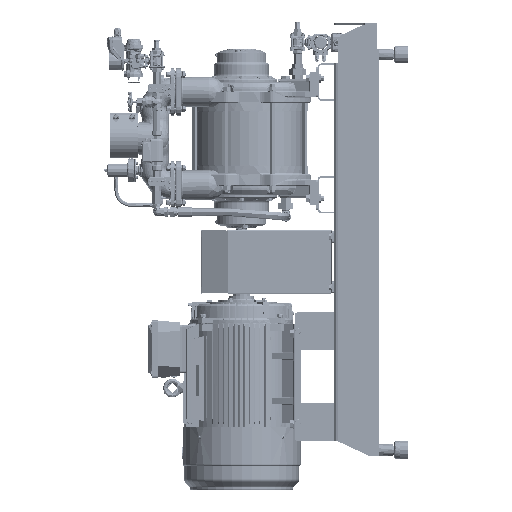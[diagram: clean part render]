
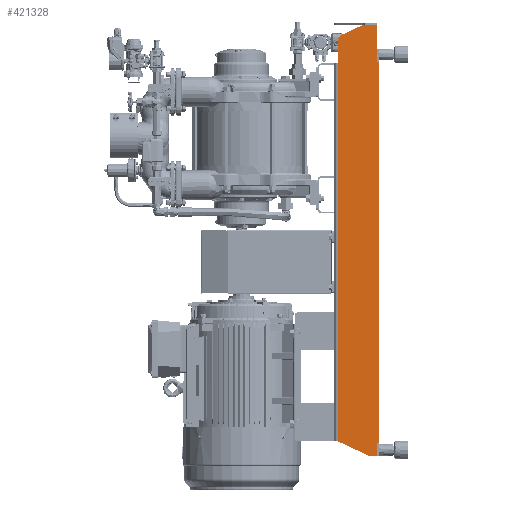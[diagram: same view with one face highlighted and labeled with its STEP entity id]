
A CAD part, left-side view. The second image highlights one B-rep face of the part: STEP entity #421328.
In plain terms, the highlighted planar face has unit normal (-1, 0, 0).
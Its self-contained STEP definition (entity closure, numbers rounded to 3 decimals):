
#28953=PLANE('',#449869);
#49876=FACE_OUTER_BOUND('',#74838,.T.);
#74838=EDGE_LOOP('',(#315119,#315120,#315121,#315122,#315123,#315124,#315125,
#315126,#315127,#315128,#315129,#315130));
#103373=LINE('',#802713,#132296);
#104060=LINE('',#804895,#132983);
#104061=LINE('',#804897,#132984);
#104062=LINE('',#804898,#132985);
#104063=LINE('',#804900,#132986);
#104064=LINE('',#804904,#132987);
#104065=LINE('',#804905,#132988);
#104066=LINE('',#804907,#132989);
#104067=LINE('',#804909,#132990);
#104068=LINE('',#804911,#132991);
#104069=LINE('',#804912,#132992);
#132296=VECTOR('',#514106,10.);
#132983=VECTOR('',#515973,10.);
#132984=VECTOR('',#515974,10.);
#132985=VECTOR('',#515975,10.);
#132986=VECTOR('',#515976,10.);
#132987=VECTOR('',#515979,10.);
#132988=VECTOR('',#515980,10.);
#132989=VECTOR('',#515981,10.);
#132990=VECTOR('',#515982,10.);
#132991=VECTOR('',#515983,10.);
#132992=VECTOR('',#515984,10.);
#153692=CIRCLE('',#449870,25.);
#180147=VERTEX_POINT('',#802710);
#180148=VERTEX_POINT('',#802712);
#180778=VERTEX_POINT('',#804879);
#180782=VERTEX_POINT('',#804893);
#180783=VERTEX_POINT('',#804894);
#180784=VERTEX_POINT('',#804896);
#180785=VERTEX_POINT('',#804899);
#180786=VERTEX_POINT('',#804901);
#180787=VERTEX_POINT('',#804903);
#180788=VERTEX_POINT('',#804906);
#180789=VERTEX_POINT('',#804908);
#180790=VERTEX_POINT('',#804910);
#227687=EDGE_CURVE('',#180147,#180148,#103373,.T.);
#228706=EDGE_CURVE('',#180782,#180783,#104060,.T.);
#228707=EDGE_CURVE('',#180782,#180784,#104061,.T.);
#228708=EDGE_CURVE('',#180148,#180784,#104062,.T.);
#228709=EDGE_CURVE('',#180785,#180147,#104063,.T.);
#228710=EDGE_CURVE('',#180786,#180785,#153692,.T.);
#228711=EDGE_CURVE('',#180787,#180786,#104064,.T.);
#228712=EDGE_CURVE('',#180787,#180778,#104065,.T.);
#228713=EDGE_CURVE('',#180788,#180778,#104066,.T.);
#228714=EDGE_CURVE('',#180789,#180788,#104067,.T.);
#228715=EDGE_CURVE('',#180789,#180790,#104068,.T.);
#228716=EDGE_CURVE('',#180790,#180783,#104069,.T.);
#315119=ORIENTED_EDGE('',*,*,#228706,.F.);
#315120=ORIENTED_EDGE('',*,*,#228707,.T.);
#315121=ORIENTED_EDGE('',*,*,#228708,.F.);
#315122=ORIENTED_EDGE('',*,*,#227687,.F.);
#315123=ORIENTED_EDGE('',*,*,#228709,.F.);
#315124=ORIENTED_EDGE('',*,*,#228710,.F.);
#315125=ORIENTED_EDGE('',*,*,#228711,.F.);
#315126=ORIENTED_EDGE('',*,*,#228712,.T.);
#315127=ORIENTED_EDGE('',*,*,#228713,.F.);
#315128=ORIENTED_EDGE('',*,*,#228714,.F.);
#315129=ORIENTED_EDGE('',*,*,#228715,.T.);
#315130=ORIENTED_EDGE('',*,*,#228716,.T.);
#421328=ADVANCED_FACE('',(#49876),#28953,.T.);
#449869=AXIS2_PLACEMENT_3D('',#804892,#515971,#515972);
#449870=AXIS2_PLACEMENT_3D('',#804902,#515977,#515978);
#514106=DIRECTION('',(0.,-1.,0.));
#515971=DIRECTION('center_axis',(-1.,0.,0.));
#515972=DIRECTION('ref_axis',(0.,0.,
-1.));
#515973=DIRECTION('',(0.,0.,-1.));
#515974=DIRECTION('',(0.,1.,0.));
#515975=DIRECTION('',(0.,0.,-1.));
#515976=DIRECTION('',(0.,-0.906,0.423));
#515977=DIRECTION('center_axis',(1.,0.,0.));
#515978=DIRECTION('ref_axis',(0.,0.843,0.537));
#515979=DIRECTION('',(0.,0.,1.));
#515980=DIRECTION('',(0.,0.,-1.));
#515981=DIRECTION('',(0.,0.906,0.423));
#515982=DIRECTION('',(0.,1.,0.));
#515983=DIRECTION('',(0.,0.,1.));
#515984=DIRECTION('',(0.,-1.,0.));
#802710=CARTESIAN_POINT('',(-254.,-3.804,666.766));
#802712=CARTESIAN_POINT('',(-254.,-49.,666.766));
#802713=CARTESIAN_POINT('',(-254.,-3.804,666.766));
#804879=CARTESIAN_POINT('',(-254.,83.,-730.234));
#804892=CARTESIAN_POINT('Origin',(-254.,348.586,-186.984));
#804893=CARTESIAN_POINT('',(-254.,-55.,542.766));
#804894=CARTESIAN_POINT('',(-254.,-55.,-736.234));
#804895=CARTESIAN_POINT('',(-254.,-55.,-980.734));
#804896=CARTESIAN_POINT('',(-254.,-49.,542.766));
#804897=CARTESIAN_POINT('',(-254.,146.793,542.766));
#804898=CARTESIAN_POINT('',(-254.,-49.,666.766));
#804899=CARTESIAN_POINT('',(-254.,68.565,633.02));
#804900=CARTESIAN_POINT('',(-254.,83.,626.289));
#804901=CARTESIAN_POINT('',(-254.,83.,610.362));
#804902=CARTESIAN_POINT('Origin',(-254.,58.,610.362));
#804903=CARTESIAN_POINT('',(-254.,83.,536.766));
#804904=CARTESIAN_POINT('',(-254.,83.,536.766));
#804905=CARTESIAN_POINT('',(-254.,83.,-186.984));
#804906=CARTESIAN_POINT('',(-254.,-24.225,-780.234));
#804907=CARTESIAN_POINT('',(-254.,-24.225,-780.234));
#804908=CARTESIAN_POINT('',(-254.,-49.,-780.234));
#804909=CARTESIAN_POINT('',(-254.,-55.,-780.234));
#804910=CARTESIAN_POINT('',(-254.,-49.,-736.234));
#804911=CARTESIAN_POINT('',(-254.,-49.,-487.359));
#804912=CARTESIAN_POINT('',(-254.,146.793,-736.234));
